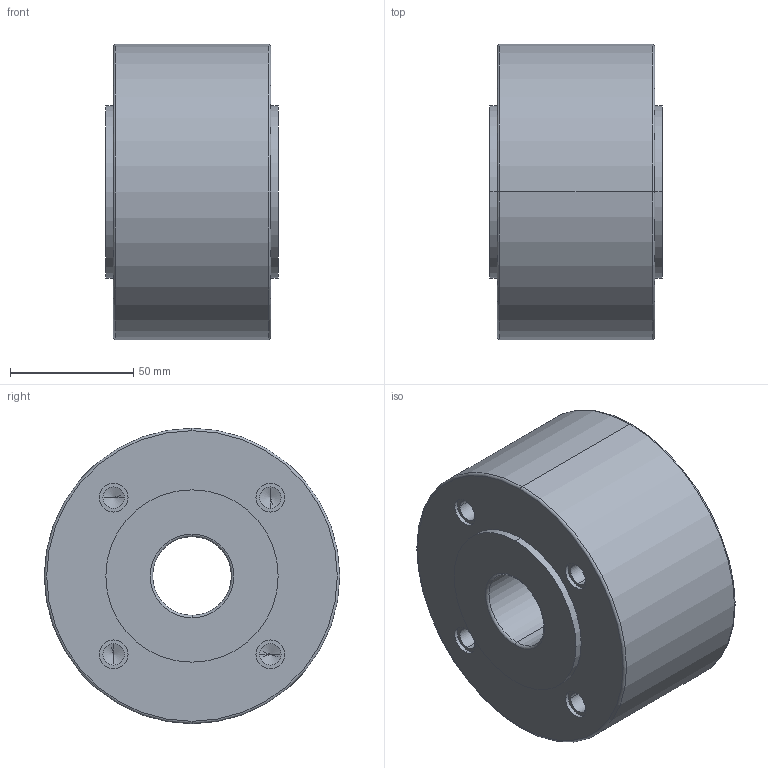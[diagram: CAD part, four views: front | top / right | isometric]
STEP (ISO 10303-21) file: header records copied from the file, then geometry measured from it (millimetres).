
FILE_DESCRIPTION (( 'STEP AP203' ), '1' );
FILE_NAME ('W8_PN06_DN032.STEP', '2012-10-31T07:08:26', ( 'luca.saino' ), ( 'Hewlett-Packard Company' ), 'SwSTEP 2.0', 'SolidWorks 2012', '' );
FILE_SCHEMA (( 'CONFIG_CONTROL_DESIGN' ));
Length unit declared in the file: millimetre
Products named in the file (1): W8_PN06_DN032
Bounding box: 70 x 120 x 120 mm (x, y, z)
Volume: 683302.8 mm3; surface area: 56116.5 mm2
Topology: 1 solids, 1 shells, 76 faces, 168 edges, 96 vertices
Faces by surface type: cylinder 40, cone 16, plane 12, torus 8
Entity records: 2085 total; most frequent: DIRECTION 402, CARTESIAN_POINT 325, ORIENTED_EDGE 304, AXIS2_PLACEMENT_3D 173, EDGE_CURVE 152, EDGE_LOOP 96, CIRCLE 96, VERTEX_POINT 96
